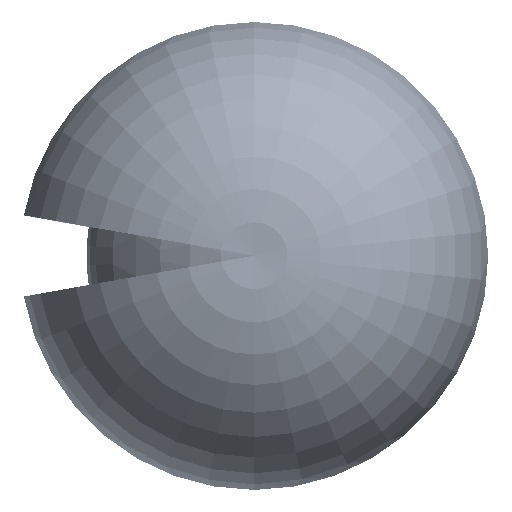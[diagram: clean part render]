
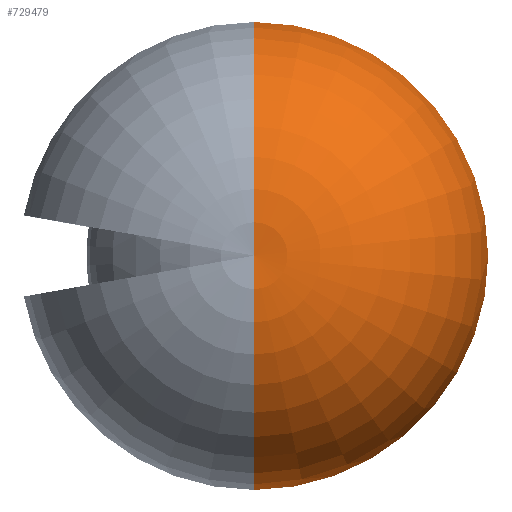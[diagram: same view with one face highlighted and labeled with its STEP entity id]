
A CAD part, top view. The second image highlights one B-rep face of the part: STEP entity #729479.
In plain terms, the highlighted toroidal (fillet/blend) face has major radius 320 mm and minor radius 2335.02 mm.
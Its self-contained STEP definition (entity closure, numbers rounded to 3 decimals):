
#13091 = VERTEX_POINT ( 'NONE', #370476 ) ;
#25212 = CIRCLE ( 'NONE', #177164, 2335.024 ) ;
#29026 = EDGE_CURVE ( 'NONE', #13091, #271856, #25212, .T. ) ;
#34912 = DIRECTION ( 'NONE',  ( 0., 0., 1. ) ) ;
#37501 = EDGE_LOOP ( 'NONE', ( #235186, #728207, #321574 ) ) ;
#42820 = AXIS2_PLACEMENT_3D ( 'NONE', #632567, #153548, #34912 ) ;
#66977 = DIRECTION ( 'NONE',  ( 0., 0., -1. ) ) ;
#80406 = CIRCLE ( 'NONE', #510282, 2646.139 ) ;
#110771 = DIRECTION ( 'NONE',  ( 0., 1., 0. ) ) ;
#129835 = CARTESIAN_POINT ( 'NONE',  ( 0., 2646.139, 983.511 ) ) ;
#153548 = DIRECTION ( 'NONE',  ( -1., 0., 0. ) ) ;
#158702 = EDGE_CURVE ( 'NONE', #13091, #552172, #548457, .T. ) ;
#177164 = AXIS2_PLACEMENT_3D ( 'NONE', #745027, #614410, #748915 ) ;
#202473 = TOROIDAL_SURFACE ( 'NONE', #379926, 320., 2335.024 ) ;
#235186 = ORIENTED_EDGE ( 'NONE', *, *, #158702, .F. ) ;
#238300 = DIRECTION ( 'NONE',  ( 0., 1., 0. ) ) ;
#271856 = VERTEX_POINT ( 'NONE', #669428 ) ;
#321574 = ORIENTED_EDGE ( 'NONE', *, *, #647885, .F. ) ;
#370476 = CARTESIAN_POINT ( 'NONE',  ( 0., 0., 3092.994 ) ) ;
#379926 = AXIS2_PLACEMENT_3D ( 'NONE', #580081, #398067, #238300 ) ;
#398067 = DIRECTION ( 'NONE',  ( 0., 0., -1. ) ) ;
#427105 = CARTESIAN_POINT ( 'NONE',  ( 0., 0., 983.511 ) ) ;
#453674 = FACE_OUTER_BOUND ( 'NONE', #37501, .T. ) ;
#510282 = AXIS2_PLACEMENT_3D ( 'NONE', #427105, #66977, #110771 ) ;
#548457 = CIRCLE ( 'NONE', #42820, 2335.024 ) ;
#552172 = VERTEX_POINT ( 'NONE', #129835 ) ;
#580081 = CARTESIAN_POINT ( 'NONE',  ( 0., 0., 780. ) ) ;
#614410 = DIRECTION ( 'NONE',  ( 1., 0., 0. ) ) ;
#632567 = CARTESIAN_POINT ( 'NONE',  ( 0., 320., 780. ) ) ;
#647885 = EDGE_CURVE ( 'NONE', #552172, #271856, #80406, .T. ) ;
#669428 = CARTESIAN_POINT ( 'NONE',  ( 0., -2646.139, 983.511 ) ) ;
#728207 = ORIENTED_EDGE ( 'NONE', *, *, #29026, .T. ) ;
#729479 = ADVANCED_FACE ( 'NONE', ( #453674 ), #202473, .T. ) ;
#745027 = CARTESIAN_POINT ( 'NONE',  ( 0., -320., 780. ) ) ;
#748915 = DIRECTION ( 'NONE',  ( 0., 1., 0. ) ) ;
